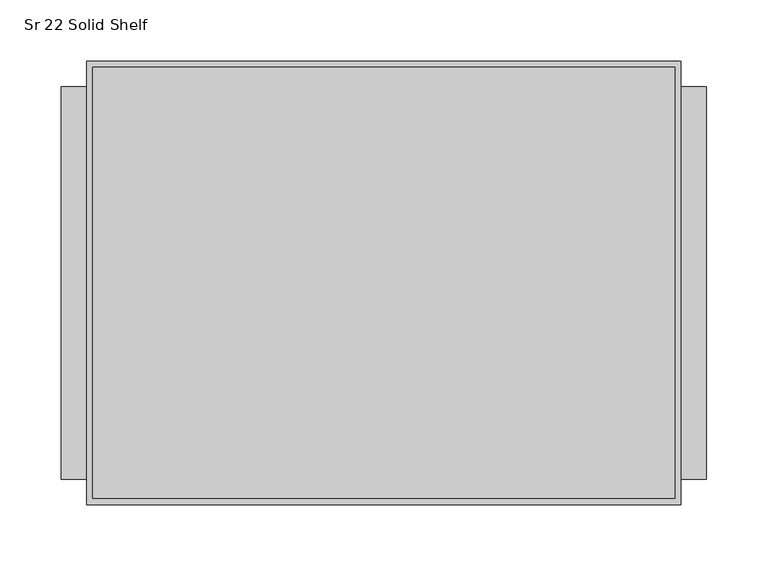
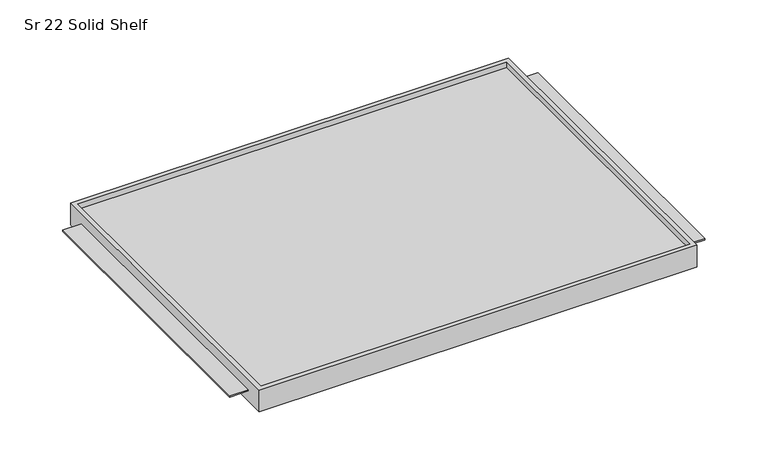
"""IFC4 building model written with IfcOpenShell, lengths in millimetres: furniture geometry, HermanMiller_Carts_CT521_CartShelf : Sr 22 Solid Shelf."""

from ifc_helpers import new_model, si_unit, frame, origin, place, context, project, spatial, polyline, outline, extrude, faceted_brep, source, transform, mapped, element, save


def sr_22_solid_shelf_ef78e3b3(model_context):
    return source(origin(), model_context, "Body", "SolidModel", [
        extrude(outline(polyline([(-299.9701517, -185.7375), (-320.6076517, -185.7375), (-320.6076517, 134.9375), (-299.9701517, 134.9375), (-299.9701517, -185.7375)])), frame((0.0, 0.0, 1329.5376346), z_axis=(0.0, 0.0, 1.0), x_axis=(1.0, 0.0, 0.0)), (0.0, 0.0, 1.0), 1.5875),
        extrude(outline(polyline([(206.4423483, 134.9375), (206.4423483, -185.7375), (180.7248483, -185.7375), (180.7248483, 134.9375), (206.4423483, 134.9375)])), frame((0.0, 0.0, 1329.5376346), z_axis=(0.0, 0.0, 1.0), x_axis=(1.0, 0.0, 0.0)), (0.0, 0.0, 1.0), 1.5875),
        faceted_brep([(185.8048483, -206.375, 1343.0313846), (-299.9701517, -206.375, 1343.0313846), (-299.9701517, -206.375, 1317.6313846), (185.8048483, -206.375, 1317.6313846), (185.8048483, 155.575, 1343.0313846), (185.8048483, 155.575, 1317.6313846), (-299.9701517, 155.575, 1317.6313846), (-299.9701517, 155.575, 1343.0313846), (-294.8901517, 150.495, 1343.0313846), (180.7248483, 150.495, 1343.0313846), (180.7248483, -201.295, 1343.0313846), (-294.8901517, -201.295, 1343.0313846), (180.7248483, 150.495, 1336.6813846), (-294.8901517, 150.495, 1336.6813846), (-294.8901517, -201.295, 1336.6813846), (180.7248483, -201.295, 1336.6813846)], [[[0, 1, 2, 3]], [[4, 5, 6, 7]], [[1, 0, 4, 7], [8, 9, 10, 11]], [[2, 1, 7, 6]], [[3, 2, 6, 5]], [[0, 3, 5, 4]], [[12, 13, 14, 15]], [[13, 12, 9, 8]], [[14, 13, 8, 11]], [[15, 14, 11, 10]], [[12, 15, 10, 9]]]),
    ])


if __name__ == "__main__":
    model = new_model("IFC4")
    model_context = context("Model", 3, world=origin())
    ifc_project = project(units=[si_unit("LENGTHUNIT", "METRE", prefix="MILLI")], contexts=[model_context])
    site = spatial("IfcSite", under=ifc_project)
    building = spatial("IfcBuilding", under=site)
    placement = place(None, origin())
    sr_22_solid_shelf_shape = sr_22_solid_shelf_ef78e3b3(model_context)
    element("IfcFurniture", 1, ObjectType="HermanMiller_Carts_CT521_CartShelf : Sr 22 Solid Shelf", at=placement, inside=building, context=model_context, shape_type="MappedRepresentation", body=[
        mapped(sr_22_solid_shelf_shape, transform((0.0, 0.0, 0.0), x_axis=(1.0, 0.0, 0.0), y_axis=(0.0, 1.0, 0.0), z_axis=(0.0, 0.0, 1.0))),
    ])
    save(model, "model.ifc")
